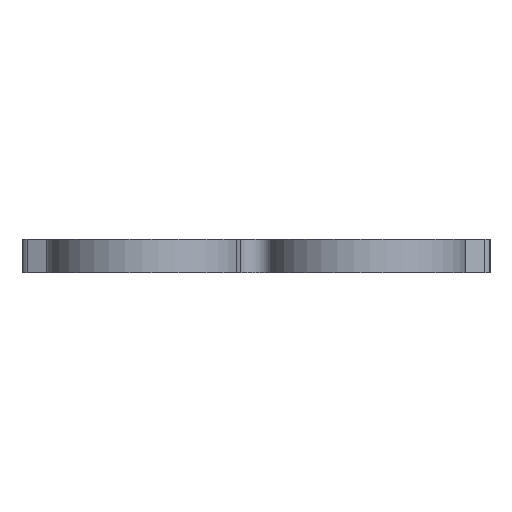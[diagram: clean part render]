
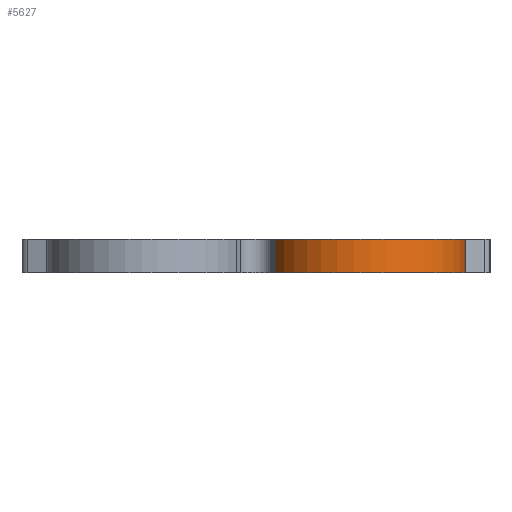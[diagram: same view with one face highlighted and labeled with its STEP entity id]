
A CAD part, left-side view. The second image highlights one B-rep face of the part: STEP entity #5627.
In plain terms, the highlighted cylindrical face has radius 5.9 mm (diameter 11.8 mm), a partial arc.
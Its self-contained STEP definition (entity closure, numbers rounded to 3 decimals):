
#1221=CARTESIAN_POINT('',(-157.869,-1.145,2.0));
#1222=VERTEX_POINT('',#1221);
#1229=CARTESIAN_POINT('',(-155.393,-12.4,2.0));
#1230=VERTEX_POINT('',#1229);
#1231=CARTESIAN_POINT('',(-155.393,-6.5,2.0));
#1232=DIRECTION('',(0.0,0.0,-1.0));
#1233=DIRECTION('',(-0.42,0.908,0.0));
#1234=AXIS2_PLACEMENT_3D('',#1231,#1232,#1233);
#1235=CIRCLE('',#1234,5.9);
#1236=EDGE_CURVE('',#1230,#1222,#1235,.T.);
#3463=CARTESIAN_POINT('',(-155.393,-12.4,0.0));
#3464=VERTEX_POINT('',#3463);
#3471=CARTESIAN_POINT('',(-157.869,-1.145,0.0));
#3472=VERTEX_POINT('',#3471);
#3473=CARTESIAN_POINT('',(-155.393,-6.5,0.0));
#3474=DIRECTION('',(0.0,0.0,1.0));
#3475=DIRECTION('',(-0.42,0.908,0.0));
#3476=AXIS2_PLACEMENT_3D('',#3473,#3474,#3475);
#3477=CIRCLE('',#3476,5.9);
#3478=EDGE_CURVE('',#3472,#3464,#3477,.T.);
#5601=CARTESIAN_POINT('',(-155.393,-12.4,0.0));
#5602=DIRECTION('',(0.0,0.0,1.0));
#5603=VECTOR('',#5602,2.0);
#5604=LINE('',#5601,#5603);
#5605=EDGE_CURVE('',#3464,#1230,#5604,.T.);
#5611=CARTESIAN_POINT('',(-155.393,-6.5,0.0));
#5612=DIRECTION('',(0.0,0.0,1.0));
#5613=DIRECTION('',(-0.42,0.908,0.0));
#5614=AXIS2_PLACEMENT_3D('',#5611,#5612,#5613);
#5615=CYLINDRICAL_SURFACE('',#5614,5.9);
#5616=ORIENTED_EDGE('',*,*,#1236,.T.);
#5617=CARTESIAN_POINT('',(-157.869,-1.145,0.0));
#5618=DIRECTION('',(0.0,0.0,1.0));
#5619=VECTOR('',#5618,2.0);
#5620=LINE('',#5617,#5619);
#5621=EDGE_CURVE('',#3472,#1222,#5620,.T.);
#5622=ORIENTED_EDGE('',*,*,#5621,.F.);
#5623=ORIENTED_EDGE('',*,*,#3478,.T.);
#5624=ORIENTED_EDGE('',*,*,#5605,.T.);
#5625=EDGE_LOOP('',(#5616,#5622,#5623,#5624));
#5626=FACE_OUTER_BOUND('',#5625,.T.);
#5627=ADVANCED_FACE('',(#5626),#5615,.T.);
